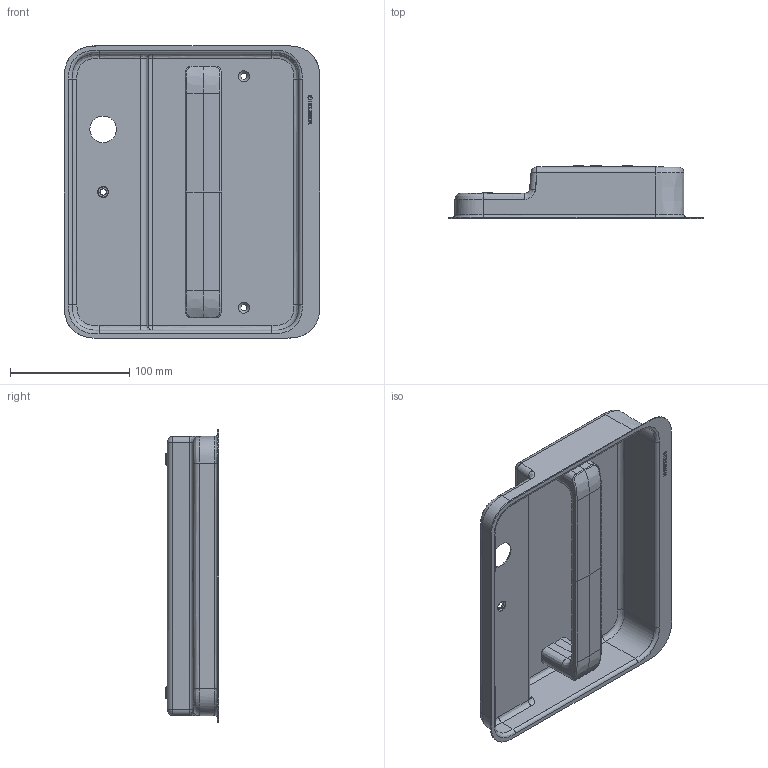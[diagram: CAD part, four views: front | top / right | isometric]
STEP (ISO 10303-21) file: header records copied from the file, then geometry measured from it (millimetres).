
FILE_DESCRIPTION(/* description */ (''),/* implementation_level */ '2;1');
FILE_NAME(/* name */ 'C:\ADSK_DMS_WS\Designs\Vorschläge\Loc Schalen\Heusser Muschel\Heusser-Muschel mit D6\Heusser-Muschel S9.42 mit D6\S9.42.D6.274L..stp',/* time_stamp */ '2025-04-14T16:04:53+02:00',/* author */ ('gm'),/* organization */ (''),/* preprocessor_version */ 'ST-DEVELOPER v17.2',/* originating_system */ 'Autodesk Inventor 2019',/* authorisation */ '');
FILE_SCHEMA (('AUTOMOTIVE_DESIGN { 1 0 10303 214 3 1 1 }'));
Length unit declared in the file: millimetre
Products named in the file (4): S9.42.D6.274L.; Schale S9.42.R.D6; D6; M5x10 zu D6
Assembly tree (6 placements, depth 2):
  S9.42.D6.274L.
    Schale S9.42.R.D6
    D6
    M5x10 zu D6  x4
Bounding box: 214 x 44.5 x 245 mm (x, y, z)
Volume: 160619.9 mm3; surface area: 182715.2 mm2
Topology: 6 solids, 6 shells, 418 faces, 1076 edges, 685 vertices
Faces by surface type: bspline 168, plane 131, cylinder 65, cone 50, torus 4
Full cylindrical faces by diameter (mm): 4.134 x4, 5 x4, 5.5 x4, 9 x4, 22.3 x1
Entity records: 24928 total; most frequent: CARTESIAN_POINT 17677, ORIENTED_EDGE 1720, DIRECTION 975, EDGE_CURVE 860, VERTEX_POINT 550, LINE 445, VECTOR 445, EDGE_LOOP 374
